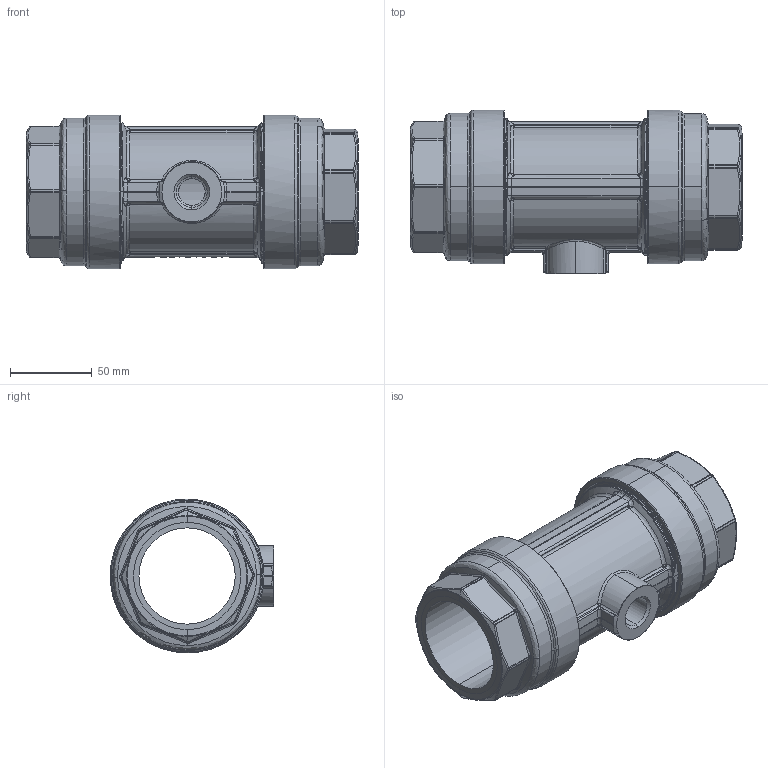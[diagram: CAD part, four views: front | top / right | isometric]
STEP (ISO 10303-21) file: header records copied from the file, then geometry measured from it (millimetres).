
FILE_DESCRIPTION (( 'STEP AP214' ), '1' );
FILE_NAME ('9023600017A.STEP', '2014-04-17T07:51:06', ( '' ), ( '' ), 'SwSTEP 2.0', 'SolidWorks 2013', '' );
FILE_SCHEMA (( 'AUTOMOTIVE_DESIGN' ));
Length unit declared in the file: millimetre
Products named in the file (1): 9023600017A
Bounding box: 202.87 x 100 x 94 mm (x, y, z)
Volume: 540571.7 mm3; surface area: 110597.7 mm2
Topology: 3 solids, 3 shells, 757 faces, 1934 edges, 1131 vertices
Faces by surface type: bspline 432, plane 138, cylinder 137, cone 50
Entity records: 57040 total; most frequent: CARTESIAN_POINT 38936, ORIENTED_EDGE 3772, DIRECTION 1969, EDGE_CURVE 1886, VERTEX_POINT 1131, B_SPLINE_CURVE_WITH_KNOTS 785, EDGE_LOOP 771, FACE_OUTER_BOUND 757
